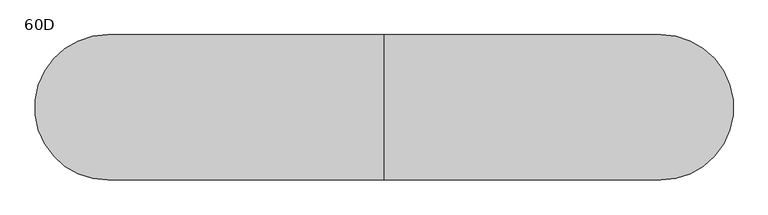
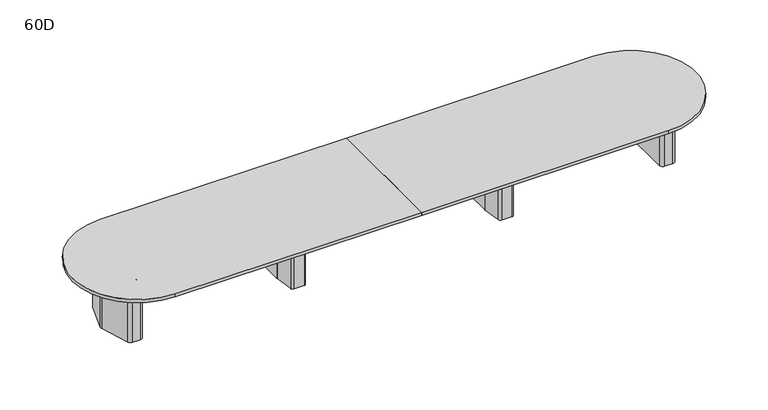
"""IFC4 building model written with IfcOpenShell, lengths in millimetres: furniture geometry, Coalesse_AM_Table_Conference_ETable2_Racetrack_24ft_FourBase : 60D."""

from ifc_helpers import new_model, si_unit, point, frame, frame_2d, origin, origin_with_axes, place, context, project, spatial, polyline, circle_curve, trimmed, segment, composite_curve, outline, extrude, source, transform, mapped, element, save
from ifc_brep_helpers import plane_surface, cylinder_surface, revolved_surface, advanced_brep


def furniture_60d_cc4c99b4(model_context):
    return source(origin(), model_context, "Body", "SolidModel", [
        advanced_brep(
        [(1280.2357815, 381.0, 698.5), (1158.1642185, 381.0, 698.5), (1133.0114006, 359.1349332, 698.5), (1101.9721821, 138.2753661, 698.5), (1101.725, 134.740433, 698.5), (1101.725, -134.7404196, 698.5), (1101.9721537, -138.2751502, 698.5), (1133.0095605, -359.1347306, 698.5), (1158.1624068, -381.0, 698.5), (1280.2375932, -381.0, 698.5), (1305.3904395, -359.1347306, 698.5), (1336.4278463, -138.2751502, 698.5), (1336.675, -134.7404196, 698.5), (1336.675, 134.740433, 698.5), (1336.4278179, 138.2753661, 698.5), (1305.3885994, 359.1349332, 698.5), (1244.6, 314.325, 698.5), (1270.0, 288.925, 698.5), (1270.0, -288.925, 698.5), (1244.6, -314.325, 698.5), (1193.8, -314.325, 698.5), (1168.4, -288.925, 698.5), (1168.4, 288.925, 698.5), (1193.8, 314.325, 698.5), (1280.2357815, 381.0, 3.175), (1305.3885994, 359.1349332, 3.175), (1336.4278179, 138.2753661, 3.175), (1336.675, 134.740433, 3.175), (1336.675, -134.7404196, 3.175), (1336.4278463, -138.2751502, 3.175), (1305.3904395, -359.1347306, 3.175), (1280.2375932, -381.0, 3.175), (1158.1624068, -381.0, 3.175), (1133.0095605, -359.1347306, 3.175), (1101.9721537, -138.2751502, 3.175), (1101.725, -134.7404196, 3.175), (1101.725, 134.740433, 3.175), (1101.9721821, 138.2753661, 3.175), (1133.0114006, 359.1349332, 3.175), (1158.1642185, 381.0, 3.175), (1244.6, 327.025, 3.175), (1193.8, 327.025, 3.175), (1155.7, 288.925, 3.175), (1155.7, -288.925, 3.175), (1193.8, -327.025, 3.175), (1244.6, -327.025, 3.175), (1282.7, -288.925, 3.175), (1282.7, 288.925, 3.175), (1244.6, 314.325, 3.175), (1270.0, 288.925, 3.175), (1270.0, -288.925, 3.175), (1244.6, -314.325, 3.175), (1193.8, -314.325, 3.175), (1168.4, -288.925, 3.175), (1168.4, 288.925, 3.175), (1193.8, 314.325, 3.175), (1244.6, 327.025, 0.0), (1282.7, 288.925, 0.0), (1282.7, -288.925, 0.0), (1244.6, -327.025, 0.0), (1193.8, -327.025, 0.0), (1155.7, -288.925, 0.0), (1155.7, 288.925, 0.0), (1193.8, 327.025, 0.0)],
        [
            (0, 1),
            (1, 2, circle_curve(frame((1158.1642185, 355.6, 698.5), z_axis=(0.0, 0.0, 1.0), x_axis=(1.0, 0.0, 0.0)), 25.4)),
            (2, 3),
            (3, 4, circle_curve(frame((1127.125, 134.740433, 698.5), z_axis=(0.0, 0.0, 1.0), x_axis=(1.0, 0.0, 0.0)), 25.4)),
            (4, 5),
            (5, 6, circle_curve(frame((1127.125, -134.7404196, 698.5), z_axis=(0.0, 0.0, 1.0), x_axis=(1.0, 0.0, 0.0)), 25.4)),
            (6, 7),
            (7, 8, circle_curve(frame((1158.1624068, -355.6, 698.5), z_axis=(0.0, 0.0, 1.0), x_axis=(1.0, 0.0, 0.0)), 25.4)),
            (8, 9),
            (9, 10, circle_curve(frame((1280.2375932, -355.6, 698.5), z_axis=(0.0, 0.0, 1.0), x_axis=(1.0, 0.0, 0.0)), 25.4)),
            (10, 11),
            (11, 12, circle_curve(frame((1311.275, -134.7404196, 698.5), z_axis=(0.0, 0.0, 1.0), x_axis=(1.0, 0.0, 0.0)), 25.4)),
            (12, 13),
            (13, 14, circle_curve(frame((1311.275, 134.740433, 698.5), z_axis=(0.0, 0.0, 1.0), x_axis=(1.0, 0.0, 0.0)), 25.4)),
            (14, 15),
            (15, 0, circle_curve(frame((1280.2357815, 355.6, 698.5), z_axis=(0.0, 0.0, 1.0), x_axis=(1.0, 0.0, 0.0)), 25.4)),
            (16, 17, circle_curve(frame((1244.6, 288.925, 698.5), z_axis=(0.0, 0.0, -1.0), x_axis=(1.0, 0.0, 0.0)), 25.4)),
            (17, 18),
            (18, 19, circle_curve(frame((1244.6, -288.925, 698.5), z_axis=(0.0, 0.0, -1.0), x_axis=(1.0, 0.0, 0.0)), 25.4)),
            (19, 20),
            (20, 21, circle_curve(frame((1193.8, -288.925, 698.5), z_axis=(0.0, 0.0, -1.0), x_axis=(1.0, 0.0, 0.0)), 25.4)),
            (21, 22),
            (22, 23, circle_curve(frame((1193.8, 288.925, 698.5), z_axis=(0.0, 0.0, -1.0), x_axis=(1.0, 0.0, 0.0)), 25.4)),
            (23, 16),
            (24, 25, circle_curve(frame((1280.2357815, 355.6, 3.175), z_axis=(0.0, 0.0, -1.0), x_axis=(1.0, 0.0, 0.0)), 25.4)),
            (25, 26),
            (26, 27, circle_curve(frame((1311.275, 134.740433, 3.175), z_axis=(0.0, 0.0, -1.0), x_axis=(1.0, 0.0, 0.0)), 25.4)),
            (27, 28),
            (28, 29, circle_curve(frame((1311.275, -134.7404196, 3.175), z_axis=(0.0, 0.0, -1.0), x_axis=(1.0, 0.0, 0.0)), 25.4)),
            (29, 30),
            (30, 31, circle_curve(frame((1280.2375932, -355.6, 3.175), z_axis=(0.0, 0.0, -1.0), x_axis=(1.0, 0.0, 0.0)), 25.4)),
            (31, 32),
            (32, 33, circle_curve(frame((1158.1624068, -355.6, 3.175), z_axis=(0.0, 0.0, -1.0), x_axis=(1.0, 0.0, 0.0)), 25.4)),
            (33, 34),
            (34, 35, circle_curve(frame((1127.125, -134.7404196, 3.175), z_axis=(0.0, 0.0, -1.0), x_axis=(1.0, 0.0, 0.0)), 25.4)),
            (35, 36),
            (36, 37, circle_curve(frame((1127.125, 134.740433, 3.175), z_axis=(0.0, 0.0, -1.0), x_axis=(1.0, 0.0, 0.0)), 25.4)),
            (37, 38),
            (38, 39, circle_curve(frame((1158.1642185, 355.6, 3.175), z_axis=(0.0, 0.0, -1.0), x_axis=(1.0, 0.0, 0.0)), 25.4)),
            (39, 24),
            (40, 41),
            (41, 42, circle_curve(frame((1193.8, 288.925, 3.175), z_axis=(0.0, 0.0, 1.0), x_axis=(1.0, 0.0, 0.0)), 38.1)),
            (42, 43),
            (43, 44, circle_curve(frame((1193.8, -288.925, 3.175), z_axis=(0.0, 0.0, 1.0), x_axis=(1.0, 0.0, 0.0)), 38.1)),
            (44, 45),
            (45, 46, circle_curve(frame((1244.6, -288.925, 3.175), z_axis=(0.0, 0.0, 1.0), x_axis=(1.0, 0.0, 0.0)), 38.1)),
            (46, 47),
            (47, 40, circle_curve(frame((1244.6, 288.925, 3.175), z_axis=(0.0, 0.0, 1.0), x_axis=(1.0, 0.0, 0.0)), 38.1)),
            (0, 24),
            (39, 1),
            (38, 2),
            (37, 3),
            (36, 4),
            (35, 5),
            (34, 6),
            (33, 7),
            (32, 8),
            (31, 9),
            (30, 10),
            (29, 11),
            (28, 12),
            (27, 13),
            (26, 14),
            (25, 15),
            (16, 48),
            (48, 49, circle_curve(frame((1244.6, 288.925, 3.175), z_axis=(0.0, 0.0, -1.0), x_axis=(1.0, 0.0, 0.0)), 25.4)),
            (49, 17),
            (49, 50),
            (50, 18),
            (50, 51, circle_curve(frame((1244.6, -288.925, 3.175), z_axis=(0.0, 0.0, -1.0), x_axis=(1.0, 0.0, 0.0)), 25.4)),
            (51, 19),
            (51, 52),
            (52, 20),
            (52, 53, circle_curve(frame((1193.8, -288.925, 3.175), z_axis=(0.0, 0.0, -1.0), x_axis=(1.0, 0.0, 0.0)), 25.4)),
            (53, 21),
            (53, 54),
            (54, 22),
            (54, 55, circle_curve(frame((1193.8, 288.925, 3.175), z_axis=(0.0, 0.0, -1.0), x_axis=(1.0, 0.0, 0.0)), 25.4)),
            (55, 23),
            (55, 48),
            (56, 57, circle_curve(frame((1244.6, 288.925, 0.0), z_axis=(0.0, 0.0, -1.0), x_axis=(1.0, 0.0, 0.0)), 38.1)),
            (57, 58),
            (58, 59, circle_curve(frame((1244.6, -288.925, 0.0), z_axis=(0.0, 0.0, -1.0), x_axis=(1.0, 0.0, 0.0)), 38.1)),
            (59, 60),
            (60, 61, circle_curve(frame((1193.8, -288.925, 0.0), z_axis=(0.0, 0.0, -1.0), x_axis=(1.0, 0.0, 0.0)), 38.1)),
            (61, 62),
            (62, 63, circle_curve(frame((1193.8, 288.925, 0.0), z_axis=(0.0, 0.0, -1.0), x_axis=(1.0, 0.0, 0.0)), 38.1)),
            (63, 56),
            (63, 41),
            (40, 56),
            (62, 42),
            (61, 43),
            (60, 44),
            (59, 45),
            (58, 46),
            (57, 47),
        ],
        [
            plane_surface(frame((-304.8, 381.0, 698.5), z_axis=(0.0, 0.0, 1.0), x_axis=(-1.0, 0.0, 0.0))),
            plane_surface(frame((-304.8, 381.0, 3.175), z_axis=(0.0, 0.0, -1.0), x_axis=(1.0, 0.0, 0.0))),
            plane_surface(frame((1280.2357815, 381.0, 698.5), z_axis=(0.0, 1.0, 0.0), x_axis=(0.0, 0.0, -1.0))),
            cylinder_surface(frame((1158.1642185, 355.6, 3.175), z_axis=(0.0, 0.0, 1.0), x_axis=(1.0, 0.0, 0.0)), 25.4),
            plane_surface(frame((1133.0114006, 359.1349332, 698.5), z_axis=(-0.9902684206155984, 0.13917059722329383, 0.0), x_axis=(0.0, 0.0, -1.0))),
            cylinder_surface(frame((1127.125, 134.740433, 3.175), z_axis=(0.0, 0.0, 1.0), x_axis=(1.0, 0.0, 0.0)), 25.4),
            plane_surface(frame((1101.725, 134.740433, 698.5), z_axis=(-1.0, 0.0, 0.0), x_axis=(0.0, 0.0, -1.0))),
            cylinder_surface(frame((1127.125, -134.7404196, 3.175), z_axis=(0.0, 0.0, 1.0), x_axis=(1.0, 0.0, 0.0)), 25.4),
            plane_surface(frame((1101.9721537, -138.2751502, 698.5), z_axis=(-0.9902695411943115, -0.1391626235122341, 0.0), x_axis=(0.0, 0.0, -1.0))),
            cylinder_surface(frame((1158.1624068, -355.6, 3.175), z_axis=(0.0, 0.0, 1.0), x_axis=(1.0, 0.0, 0.0)), 25.4),
            plane_surface(frame((1158.1624068, -381.0, 698.5), z_axis=(0.0, -1.0, 0.0), x_axis=(0.0, 0.0, -1.0))),
            cylinder_surface(frame((1280.2375932, -355.6, 3.175), z_axis=(0.0, 0.0, 1.0), x_axis=(1.0, 0.0, 0.0)), 25.4),
            plane_surface(frame((1305.3904395, -359.1347306, 698.5), z_axis=(0.9902695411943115, -0.1391626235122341, 0.0), x_axis=(0.0, 0.0, -1.0))),
            cylinder_surface(frame((1311.275, -134.7404196, 3.175), z_axis=(0.0, 0.0, 1.0), x_axis=(1.0, 0.0, 0.0)), 25.4),
            plane_surface(frame((1336.675, -134.7404196, 698.5), z_axis=(1.0, 0.0, 0.0), x_axis=(0.0, 0.0, -1.0))),
            cylinder_surface(frame((1311.275, 134.740433, 3.175), z_axis=(0.0, 0.0, 1.0), x_axis=(1.0, 0.0, 0.0)), 25.4),
            plane_surface(frame((1336.4278179, 138.2753661, 698.5), z_axis=(0.9902684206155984, 0.13917059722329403, 0.0), x_axis=(0.0, 0.0, -1.0))),
            cylinder_surface(frame((1280.2357815, 355.6, 3.175), z_axis=(0.0, 0.0, 1.0), x_axis=(1.0, 0.0, 0.0)), 25.4),
            revolved_surface(polyline([(1270.0, 288.925, 3.175), (1270.0, 288.925, 698.5)]), (1244.6, 288.925, 0.0), (0.0, 0.0, -1.0)),
            plane_surface(frame((1270.0, 288.925, 698.5), z_axis=(-1.0, 0.0, 0.0), x_axis=(0.0, 0.0, -1.0))),
            revolved_surface(polyline([(1270.0, -288.925, 3.175), (1270.0, -288.925, 698.5)]), (1244.6, -288.925, 0.0), (0.0, 0.0, -1.0)),
            plane_surface(frame((1244.6, -314.325, 698.5), z_axis=(0.0, 1.0, 0.0), x_axis=(0.0, 0.0, -1.0))),
            revolved_surface(polyline([(1219.2, -288.925, 3.175), (1219.2, -288.925, 698.5)]), (1193.8, -288.925, 0.0), (0.0, 0.0, -1.0)),
            plane_surface(frame((1168.4, -288.925, 698.5), z_axis=(1.0, 0.0, 0.0), x_axis=(0.0, 0.0, -1.0))),
            revolved_surface(polyline([(1219.2, 288.925, 3.175), (1219.2, 288.925, 698.5)]), (1193.8, 288.925, 0.0), (0.0, 0.0, -1.0)),
            plane_surface(frame((1193.8, 314.325, 698.5), z_axis=(0.0, -1.0, 0.0), x_axis=(0.0, 0.0, -1.0))),
            plane_surface(frame((1168.4, 327.025, 3.175), z_axis=(0.0, 0.0, 1.0), x_axis=(-1.0, 0.0, 0.0))),
            plane_surface(frame((1168.4, 327.025, 0.0), z_axis=(0.0, 0.0, -1.0), x_axis=(1.0, 0.0, 0.0))),
            plane_surface(frame((1244.6, 327.025, 3.175), z_axis=(0.0, 1.0, 0.0), x_axis=(0.0, 0.0, -1.0))),
            cylinder_surface(frame((1193.8, 288.925, 0.0), z_axis=(0.0, 0.0, 1.0), x_axis=(1.0, 0.0, 0.0)), 38.1),
            plane_surface(frame((1155.7, 288.925, 3.175), z_axis=(-1.0, 0.0, 0.0), x_axis=(0.0, 0.0, -1.0))),
            cylinder_surface(frame((1193.8, -288.925, 0.0), z_axis=(0.0, 0.0, 1.0), x_axis=(1.0, 0.0, 0.0)), 38.1),
            plane_surface(frame((1193.8, -327.025, 3.175), z_axis=(0.0, -1.0, 0.0), x_axis=(0.0, 0.0, -1.0))),
            cylinder_surface(frame((1244.6, -288.925, 0.0), z_axis=(0.0, 0.0, 1.0), x_axis=(1.0, 0.0, 0.0)), 38.1),
            plane_surface(frame((1282.7, -288.925, 3.175), z_axis=(1.0, 0.0, 0.0), x_axis=(0.0, 0.0, -1.0))),
            cylinder_surface(frame((1244.6, 288.925, 0.0), z_axis=(0.0, 0.0, 1.0), x_axis=(1.0, 0.0, 0.0)), 38.1),
        ],
        [
            (0, [[1, 2, 3, 4, 5, 6, 7, 8, 9, 10, 11, 12, 13, 14, 15, 16], [17, 18, 19, 20, 21, 22, 23, 24]]),
            (1, [[25, 26, 27, 28, 29, 30, 31, 32, 33, 34, 35, 36, 37, 38, 39, 40], [41, 42, 43, 44, 45, 46, 47, 48]]),
            (2, [[-1, 49, -40, 50]]),
            (3, [[-2, -50, -39, 51]]),
            (4, [[-3, -51, -38, 52]]),
            (5, [[-4, -52, -37, 53]]),
            (6, [[-5, -53, -36, 54]]),
            (7, [[-6, -54, -35, 55]]),
            (8, [[-7, -55, -34, 56]]),
            (9, [[-8, -56, -33, 57]]),
            (10, [[-9, -57, -32, 58]]),
            (11, [[-10, -58, -31, 59]]),
            (12, [[-11, -59, -30, 60]]),
            (13, [[-12, -60, -29, 61]]),
            (14, [[-13, -61, -28, 62]]),
            (15, [[-14, -62, -27, 63]]),
            (16, [[-15, -63, -26, 64]]),
            (17, [[-16, -64, -25, -49]]),
            (18, [[-17, 65, 66, 67]]),
            (19, [[-18, -67, 68, 69]]),
            (20, [[-19, -69, 70, 71]]),
            (21, [[-20, -71, 72, 73]]),
            (22, [[-21, -73, 74, 75]]),
            (23, [[-22, -75, 76, 77]]),
            (24, [[-23, -77, 78, 79]]),
            (25, [[-24, -79, 80, -65]]),
            (26, [[-66, -80, -78, -76, -74, -72, -70, -68]]),
            (27, [[81, 82, 83, 84, 85, 86, 87, 88]]),
            (28, [[-88, 89, -41, 90]]),
            (29, [[-87, 91, -42, -89]]),
            (30, [[-86, 92, -43, -91]]),
            (31, [[-85, 93, -44, -92]]),
            (32, [[-84, 94, -45, -93]]),
            (33, [[-83, 95, -46, -94]]),
            (34, [[-82, 96, -47, -95]]),
            (35, [[-81, -90, -48, -96]]),
        ],
    ),
        advanced_brep(
        [(-1158.1642185, 381.0, 698.5), (-1280.2357815, 381.0, 698.5), (-1305.3885994, 359.1349332, 698.5), (-1336.4278179, 138.2753661, 698.5), (-1336.675, 134.740433, 698.5), (-1336.675, -134.7404196, 698.5), (-1336.4278463, -138.2751502, 698.5), (-1305.3904395, -359.1347306, 698.5), (-1280.2375932, -381.0, 698.5), (-1158.1624068, -381.0, 698.5), (-1133.0095605, -359.1347306, 698.5), (-1101.9721537, -138.2751502, 698.5), (-1101.725, -134.7404196, 698.5), (-1101.725, 134.740433, 698.5), (-1101.9721821, 138.2753661, 698.5), (-1133.0114006, 359.1349332, 698.5), (-1193.8, 314.325, 698.5), (-1168.4, 288.925, 698.5), (-1168.4, -288.925, 698.5), (-1193.8, -314.325, 698.5), (-1244.6, -314.325, 698.5), (-1270.0, -288.925, 698.5), (-1270.0, 288.925, 698.5), (-1244.6, 314.325, 698.5), (-1158.1642185, 381.0, 3.175), (-1133.0114006, 359.1349332, 3.175), (-1101.9721821, 138.2753661, 3.175), (-1101.725, 134.740433, 3.175), (-1101.725, -134.7404196, 3.175), (-1101.9721537, -138.2751502, 3.175), (-1133.0095605, -359.1347306, 3.175), (-1158.1624068, -381.0, 3.175), (-1280.2375932, -381.0, 3.175), (-1305.3904395, -359.1347306, 3.175), (-1336.4278463, -138.2751502, 3.175), (-1336.675, -134.7404196, 3.175), (-1336.675, 134.740433, 3.175), (-1336.4278179, 138.2753661, 3.175), (-1305.3885994, 359.1349332, 3.175), (-1280.2357815, 381.0, 3.175), (-1193.8, 327.025, 3.175), (-1244.6, 327.025, 3.175), (-1282.7, 288.925, 3.175), (-1282.7, -288.925, 3.175), (-1244.6, -327.025, 3.175), (-1193.8, -327.025, 3.175), (-1155.7, -288.925, 3.175), (-1155.7, 288.925, 3.175), (-1193.8, 314.325, 3.175), (-1168.4, 288.925, 3.175), (-1168.4, -288.925, 3.175), (-1193.8, -314.325, 3.175), (-1244.6, -314.325, 3.175), (-1270.0, -288.925, 3.175), (-1270.0, 288.925, 3.175), (-1244.6, 314.325, 3.175), (-1193.8, 327.025, 0.0), (-1155.7, 288.925, 0.0), (-1155.7, -288.925, 0.0), (-1193.8, -327.025, 0.0), (-1244.6, -327.025, 0.0), (-1282.7, -288.925, 0.0), (-1282.7, 288.925, 0.0), (-1244.6, 327.025, 0.0)],
        [
            (0, 1),
            (1, 2, circle_curve(frame((-1280.2357815, 355.6, 698.5), z_axis=(0.0, 0.0, 1.0), x_axis=(1.0, 0.0, 0.0)), 25.4)),
            (2, 3),
            (3, 4, circle_curve(frame((-1311.275, 134.740433, 698.5), z_axis=(0.0, 0.0, 1.0), x_axis=(1.0, 0.0, 0.0)), 25.4)),
            (4, 5),
            (5, 6, circle_curve(frame((-1311.275, -134.7404196, 698.5), z_axis=(0.0, 0.0, 1.0), x_axis=(1.0, 0.0, 0.0)), 25.4)),
            (6, 7),
            (7, 8, circle_curve(frame((-1280.2375932, -355.6, 698.5), z_axis=(0.0, 0.0, 1.0), x_axis=(1.0, 0.0, 0.0)), 25.4)),
            (8, 9),
            (9, 10, circle_curve(frame((-1158.1624068, -355.6, 698.5), z_axis=(0.0, 0.0, 1.0), x_axis=(1.0, 0.0, 0.0)), 25.4)),
            (10, 11),
            (11, 12, circle_curve(frame((-1127.125, -134.7404196, 698.5), z_axis=(0.0, 0.0, 1.0), x_axis=(1.0, 0.0, 0.0)), 25.4)),
            (12, 13),
            (13, 14, circle_curve(frame((-1127.125, 134.740433, 698.5), z_axis=(0.0, 0.0, 1.0), x_axis=(1.0, 0.0, 0.0)), 25.4)),
            (14, 15),
            (15, 0, circle_curve(frame((-1158.1642185, 355.6, 698.5), z_axis=(0.0, 0.0, 1.0), x_axis=(1.0, 0.0, 0.0)), 25.4)),
            (16, 17, circle_curve(frame((-1193.8, 288.925, 698.5), z_axis=(0.0, 0.0, -1.0), x_axis=(1.0, 0.0, 0.0)), 25.4)),
            (17, 18),
            (18, 19, circle_curve(frame((-1193.8, -288.925, 698.5), z_axis=(0.0, 0.0, -1.0), x_axis=(1.0, 0.0, 0.0)), 25.4)),
            (19, 20),
            (20, 21, circle_curve(frame((-1244.6, -288.925, 698.5), z_axis=(0.0, 0.0, -1.0), x_axis=(1.0, 0.0, 0.0)), 25.4)),
            (21, 22),
            (22, 23, circle_curve(frame((-1244.6, 288.925, 698.5), z_axis=(0.0, 0.0, -1.0), x_axis=(1.0, 0.0, 0.0)), 25.4)),
            (23, 16),
            (24, 25, circle_curve(frame((-1158.1642185, 355.6, 3.175), z_axis=(0.0, 0.0, -1.0), x_axis=(1.0, 0.0, 0.0)), 25.4)),
            (25, 26),
            (26, 27, circle_curve(frame((-1127.125, 134.740433, 3.175), z_axis=(0.0, 0.0, -1.0), x_axis=(1.0, 0.0, 0.0)), 25.4)),
            (27, 28),
            (28, 29, circle_curve(frame((-1127.125, -134.7404196, 3.175), z_axis=(0.0, 0.0, -1.0), x_axis=(1.0, 0.0, 0.0)), 25.4)),
            (29, 30),
            (30, 31, circle_curve(frame((-1158.1624068, -355.6, 3.175), z_axis=(0.0, 0.0, -1.0), x_axis=(1.0, 0.0, 0.0)), 25.4)),
            (31, 32),
            (32, 33, circle_curve(frame((-1280.2375932, -355.6, 3.175), z_axis=(0.0, 0.0, -1.0), x_axis=(1.0, 0.0, 0.0)), 25.4)),
            (33, 34),
            (34, 35, circle_curve(frame((-1311.275, -134.7404196, 3.175), z_axis=(0.0, 0.0, -1.0), x_axis=(1.0, 0.0, 0.0)), 25.4)),
            (35, 36),
            (36, 37, circle_curve(frame((-1311.275, 134.740433, 3.175), z_axis=(0.0, 0.0, -1.0), x_axis=(1.0, 0.0, 0.0)), 25.4)),
            (37, 38),
            (38, 39, circle_curve(frame((-1280.2357815, 355.6, 3.175), z_axis=(0.0, 0.0, -1.0), x_axis=(1.0, 0.0, 0.0)), 25.4)),
            (39, 24),
            (40, 41),
            (41, 42, circle_curve(frame((-1244.6, 288.925, 3.175), z_axis=(0.0, 0.0, 1.0), x_axis=(1.0, 0.0, 0.0)), 38.1)),
            (42, 43),
            (43, 44, circle_curve(frame((-1244.6, -288.925, 3.175), z_axis=(0.0, 0.0, 1.0), x_axis=(1.0, 0.0, 0.0)), 38.1)),
            (44, 45),
            (45, 46, circle_curve(frame((-1193.8, -288.925, 3.175), z_axis=(0.0, 0.0, 1.0), x_axis=(1.0, 0.0, 0.0)), 38.1)),
            (46, 47),
            (47, 40, circle_curve(frame((-1193.8, 288.925, 3.175), z_axis=(0.0, 0.0, 1.0), x_axis=(1.0, 0.0, 0.0)), 38.1)),
            (0, 24),
            (39, 1),
            (38, 2),
            (37, 3),
            (36, 4),
            (35, 5),
            (34, 6),
            (33, 7),
            (32, 8),
            (31, 9),
            (30, 10),
            (29, 11),
            (28, 12),
            (27, 13),
            (26, 14),
            (25, 15),
            (16, 48),
            (48, 49, circle_curve(frame((-1193.8, 288.925, 3.175), z_axis=(0.0, 0.0, -1.0), x_axis=(1.0, 0.0, 0.0)), 25.4)),
            (49, 17),
            (49, 50),
            (50, 18),
            (50, 51, circle_curve(frame((-1193.8, -288.925, 3.175), z_axis=(0.0, 0.0, -1.0), x_axis=(1.0, 0.0, 0.0)), 25.4)),
            (51, 19),
            (51, 52),
            (52, 20),
            (52, 53, circle_curve(frame((-1244.6, -288.925, 3.175), z_axis=(0.0, 0.0, -1.0), x_axis=(1.0, 0.0, 0.0)), 25.4)),
            (53, 21),
            (53, 54),
            (54, 22),
            (54, 55, circle_curve(frame((-1244.6, 288.925, 3.175), z_axis=(0.0, 0.0, -1.0), x_axis=(1.0, 0.0, 0.0)), 25.4)),
            (55, 23),
            (55, 48),
            (56, 57, circle_curve(frame((-1193.8, 288.925, 0.0), z_axis=(0.0, 0.0, -1.0), x_axis=(1.0, 0.0, 0.0)), 38.1)),
            (57, 58),
            (58, 59, circle_curve(frame((-1193.8, -288.925, 0.0), z_axis=(0.0, 0.0, -1.0), x_axis=(1.0, 0.0, 0.0)), 38.1)),
            (59, 60),
            (60, 61, circle_curve(frame((-1244.6, -288.925, 0.0), z_axis=(0.0, 0.0, -1.0), x_axis=(1.0, 0.0, 0.0)), 38.1)),
            (61, 62),
            (62, 63, circle_curve(frame((-1244.6, 288.925, 0.0), z_axis=(0.0, 0.0, -1.0), x_axis=(1.0, 0.0, 0.0)), 38.1)),
            (63, 56),
            (63, 41),
            (40, 56),
            (62, 42),
            (61, 43),
            (60, 44),
            (59, 45),
            (58, 46),
            (57, 47),
        ],
        [
            plane_surface(frame((-2743.2, 381.0, 698.5), z_axis=(0.0, 0.0, 1.0), x_axis=(-1.0, 0.0, 0.0))),
            plane_surface(frame((-2743.2, 381.0, 3.175), z_axis=(0.0, 0.0, -1.0), x_axis=(1.0, 0.0, 0.0))),
            plane_surface(frame((-1158.1642185, 381.0, 698.5), z_axis=(0.0, 1.0, 0.0), x_axis=(0.0, 0.0, -1.0))),
            cylinder_surface(frame((-1280.2357815, 355.6, 3.175), z_axis=(0.0, 0.0, 1.0), x_axis=(1.0, 0.0, 0.0)), 25.4),
            plane_surface(frame((-1305.3885994, 359.1349332, 698.5), z_axis=(-0.9902684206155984, 0.13917059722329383, 0.0), x_axis=(0.0, 0.0, -1.0))),
            cylinder_surface(frame((-1311.275, 134.740433, 3.175), z_axis=(0.0, 0.0, 1.0), x_axis=(1.0, 0.0, 0.0)), 25.4),
            plane_surface(frame((-1336.675, 134.740433, 698.5), z_axis=(-1.0, 0.0, 0.0), x_axis=(0.0, 0.0, -1.0))),
            cylinder_surface(frame((-1311.275, -134.7404196, 3.175), z_axis=(0.0, 0.0, 1.0), x_axis=(1.0, 0.0, 0.0)), 25.4),
            plane_surface(frame((-1336.4278463, -138.2751502, 698.5), z_axis=(-0.9902695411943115, -0.1391626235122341, 0.0), x_axis=(0.0, 0.0, -1.0))),
            cylinder_surface(frame((-1280.2375932, -355.6, 3.175), z_axis=(0.0, 0.0, 1.0), x_axis=(1.0, 0.0, 0.0)), 25.4),
            plane_surface(frame((-1280.2375932, -381.0, 698.5), z_axis=(0.0, -1.0, 0.0), x_axis=(0.0, 0.0, -1.0))),
            cylinder_surface(frame((-1158.1624068, -355.6, 3.175), z_axis=(0.0, 0.0, 1.0), x_axis=(1.0, 0.0, 0.0)), 25.4),
            plane_surface(frame((-1133.0095605, -359.1347306, 698.5), z_axis=(0.9902695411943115, -0.1391626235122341, 0.0), x_axis=(0.0, 0.0, -1.0))),
            cylinder_surface(frame((-1127.125, -134.7404196, 3.175), z_axis=(0.0, 0.0, 1.0), x_axis=(1.0, 0.0, 0.0)), 25.4),
            plane_surface(frame((-1101.725, -134.7404196, 698.5), z_axis=(1.0, 0.0, 0.0), x_axis=(0.0, 0.0, -1.0))),
            cylinder_surface(frame((-1127.125, 134.740433, 3.175), z_axis=(0.0, 0.0, 1.0), x_axis=(1.0, 0.0, 0.0)), 25.4),
            plane_surface(frame((-1101.9721821, 138.2753661, 698.5), z_axis=(0.9902684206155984, 0.13917059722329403, 0.0), x_axis=(0.0, 0.0, -1.0))),
            cylinder_surface(frame((-1158.1642185, 355.6, 3.175), z_axis=(0.0, 0.0, 1.0), x_axis=(1.0, 0.0, 0.0)), 25.4),
            revolved_surface(polyline([(-1168.3999999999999, 288.925, 3.175), (-1168.3999999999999, 288.925, 698.5)]), (-1193.8, 288.925, 0.0), (0.0, 0.0, -1.0)),
            plane_surface(frame((-1168.4, 288.925, 698.5), z_axis=(-1.0, 0.0, 0.0), x_axis=(0.0, 0.0, -1.0))),
            revolved_surface(polyline([(-1168.3999999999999, -288.925, 3.175), (-1168.3999999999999, -288.925, 698.5)]), (-1193.8, -288.925, 0.0), (0.0, 0.0, -1.0)),
            plane_surface(frame((-1193.8, -314.325, 698.5), z_axis=(0.0, 1.0, 0.0), x_axis=(0.0, 0.0, -1.0))),
            revolved_surface(polyline([(-1219.1999999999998, -288.925, 3.175), (-1219.1999999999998, -288.925, 698.5)]), (-1244.6, -288.925, 0.0), (0.0, 0.0, -1.0)),
            plane_surface(frame((-1270.0, -288.925, 698.5), z_axis=(1.0, 0.0, 0.0), x_axis=(0.0, 0.0, -1.0))),
            revolved_surface(polyline([(-1219.1999999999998, 288.925, 3.175), (-1219.1999999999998, 288.925, 698.5)]), (-1244.6, 288.925, 0.0), (0.0, 0.0, -1.0)),
            plane_surface(frame((-1244.6, 314.325, 698.5), z_axis=(0.0, -1.0, 0.0), x_axis=(0.0, 0.0, -1.0))),
            plane_surface(frame((-1270.0, 327.025, 3.175), z_axis=(0.0, 0.0, 1.0), x_axis=(-1.0, 0.0, 0.0))),
            plane_surface(frame((-1270.0, 327.025, 0.0), z_axis=(0.0, 0.0, -1.0), x_axis=(1.0, 0.0, 0.0))),
            plane_surface(frame((-1193.8, 327.025, 3.175), z_axis=(0.0, 1.0, 0.0), x_axis=(0.0, 0.0, -1.0))),
            cylinder_surface(frame((-1244.6, 288.925, 0.0), z_axis=(0.0, 0.0, 1.0), x_axis=(1.0, 0.0, 0.0)), 38.1),
            plane_surface(frame((-1282.7, 288.925, 3.175), z_axis=(-1.0, 0.0, 0.0), x_axis=(0.0, 0.0, -1.0))),
            cylinder_surface(frame((-1244.6, -288.925, 0.0), z_axis=(0.0, 0.0, 1.0), x_axis=(1.0, 0.0, 0.0)), 38.1),
            plane_surface(frame((-1244.6, -327.025, 3.175), z_axis=(0.0, -1.0, 0.0), x_axis=(0.0, 0.0, -1.0))),
            cylinder_surface(frame((-1193.8, -288.925, 0.0), z_axis=(0.0, 0.0, 1.0), x_axis=(1.0, 0.0, 0.0)), 38.1),
            plane_surface(frame((-1155.7, -288.925, 3.175), z_axis=(1.0, 0.0, 0.0), x_axis=(0.0, 0.0, -1.0))),
            cylinder_surface(frame((-1193.8, 288.925, 0.0), z_axis=(0.0, 0.0, 1.0), x_axis=(1.0, 0.0, 0.0)), 38.1),
        ],
        [
            (0, [[1, 2, 3, 4, 5, 6, 7, 8, 9, 10, 11, 12, 13, 14, 15, 16], [17, 18, 19, 20, 21, 22, 23, 24]]),
            (1, [[25, 26, 27, 28, 29, 30, 31, 32, 33, 34, 35, 36, 37, 38, 39, 40], [41, 42, 43, 44, 45, 46, 47, 48]]),
            (2, [[-1, 49, -40, 50]]),
            (3, [[-2, -50, -39, 51]]),
            (4, [[-3, -51, -38, 52]]),
            (5, [[-4, -52, -37, 53]]),
            (6, [[-5, -53, -36, 54]]),
            (7, [[-6, -54, -35, 55]]),
            (8, [[-7, -55, -34, 56]]),
            (9, [[-8, -56, -33, 57]]),
            (10, [[-9, -57, -32, 58]]),
            (11, [[-10, -58, -31, 59]]),
            (12, [[-11, -59, -30, 60]]),
            (13, [[-12, -60, -29, 61]]),
            (14, [[-13, -61, -28, 62]]),
            (15, [[-14, -62, -27, 63]]),
            (16, [[-15, -63, -26, 64]]),
            (17, [[-16, -64, -25, -49]]),
            (18, [[-17, 65, 66, 67]]),
            (19, [[-18, -67, 68, 69]]),
            (20, [[-19, -69, 70, 71]]),
            (21, [[-20, -71, 72, 73]]),
            (22, [[-21, -73, 74, 75]]),
            (23, [[-22, -75, 76, 77]]),
            (24, [[-23, -77, 78, 79]]),
            (25, [[-24, -79, 80, -65]]),
            (26, [[-66, -80, -78, -76, -74, -72, -70, -68]]),
            (27, [[81, 82, 83, 84, 85, 86, 87, 88]]),
            (28, [[-88, 89, -41, 90]]),
            (29, [[-87, 91, -42, -89]]),
            (30, [[-86, 92, -43, -91]]),
            (31, [[-85, 93, -44, -92]]),
            (32, [[-84, 94, -45, -93]]),
            (33, [[-83, 95, -46, -94]]),
            (34, [[-82, 96, -47, -95]]),
            (35, [[-81, -90, -48, -96]]),
        ],
    ),
        extrude(outline(composite_curve([segment(polyline([(3255.9625, 101.7236478), (3255.9625, -97.2761514)]), True, "CONTINUOUS"), segment(trimmed(circle_curve(frame_2d((3217.8625, -97.2761514)), 38.1), [point((3255.9625, -97.2761514))], [point((3254.1991129, -108.7330515))], False, "CARTESIAN"), True, "CONTINUOUS"), segment(polyline([(3254.1991129, -108.7330515), (3195.7745591, -294.0319001)]), True, "CONTINUOUS"), segment(trimmed(circle_curve(frame_2d((3159.4379462, -282.575)), 38.1), [point((3195.7745591, -294.0319001))], [point((3159.4379462, -320.675))], False, "CARTESIAN"), True, "CONTINUOUS"), segment(polyline([(3159.4379462, -320.675), (3092.45, -320.675)]), True, "CONTINUOUS"), segment(trimmed(circle_curve(frame_2d((3092.45, -282.575)), 38.1), [point((3092.45, -320.675))], [point((3054.35, -282.575))], False, "CARTESIAN"), True, "CONTINUOUS"), segment(polyline([(3054.35, -282.575), (3054.35, 282.575)]), True, "CONTINUOUS"), segment(trimmed(circle_curve(frame_2d((3092.45, 282.575)), 38.1), [point((3054.35, 282.575))], [point((3092.45, 320.675))], False, "CARTESIAN"), True, "CONTINUOUS"), segment(polyline([(3092.45, 320.675), (3163.1873998, 320.675)]), True, "CONTINUOUS"), segment(trimmed(circle_curve(frame_2d((3163.1873998, 282.575)), 38.1), [point((3163.1873998, 320.675))], [point((3199.6572049, 293.6005756))], False, "CARTESIAN"), True, "CONTINUOUS"), segment(polyline([(3199.6572049, 293.6005756), (3254.3323051, 112.7492234)]), True, "CONTINUOUS"), segment(trimmed(circle_curve(frame_2d((3217.8625, 101.7236478)), 38.1), [point((3254.3323051, 112.7492234))], [point((3255.9625, 101.7236478))], False, "CARTESIAN"), True, "CONTINUOUS")], self_intersect=False)), origin_with_axes(), (0.0, 0.0, 1.0), 3.175),
        extrude(outline(composite_curve([segment(polyline([(3076.575, 381.0), (3164.7221663, 381.0)]), True, "CONTINUOUS"), segment(trimmed(circle_curve(frame_2d((3164.7221663, 339.725)), 41.275), [point((3164.7221663, 381.0))], [point((3204.0868303, 352.1366418))], False, "CARTESIAN"), True, "CONTINUOUS"), segment(polyline([(3204.0868303, 352.1366418), (3311.2018053, 12.4116418)]), True, "CONTINUOUS"), segment(trimmed(circle_curve(frame_2d((3271.8371413, 0.0)), 41.275), [point((3311.2018053, 12.4116418))], [point((3311.2018053, -12.4116418))], False, "CARTESIAN"), True, "CONTINUOUS"), segment(polyline([(3311.2018053, -12.4116418), (3204.0868303, -352.1366418)]), True, "CONTINUOUS"), segment(trimmed(circle_curve(frame_2d((3164.7221663, -339.725)), 41.275), [point((3204.0868303, -352.1366418))], [point((3164.7221663, -381.0))], False, "CARTESIAN"), True, "CONTINUOUS"), segment(polyline([(3164.7221663, -381.0), (3070.225, -381.0)]), True, "CONTINUOUS"), segment(trimmed(circle_curve(frame_2d((3070.225, -339.725)), 41.275), [point((3070.225, -381.0))], [point((3028.95, -339.725))], False, "CARTESIAN"), True, "CONTINUOUS"), segment(polyline([(3028.95, -339.725), (3028.95, 333.375)]), True, "CONTINUOUS"), segment(trimmed(circle_curve(frame_2d((3076.575, 333.375)), 47.625), [point((3028.95, 333.375))], [point((3076.575, 381.0))], False, "CARTESIAN"), True, "CONTINUOUS")], self_intersect=False), holes=[composite_curve([segment(trimmed(circle_curve(frame_2d((3092.45, -282.575)), 25.4), [point((3067.05, -282.575))], [point((3092.45, -307.975))], True, "CARTESIAN"), True, "CONTINUOUS"), segment(polyline([(3092.45, -307.975), (3159.4379462, -307.975)]), True, "CONTINUOUS"), segment(trimmed(circle_curve(frame_2d((3159.4379462, -282.575)), 25.4), [point((3159.4379462, -307.975))], [point((3183.6623548, -290.2129334))], True, "CARTESIAN"), True, "CONTINUOUS"), segment(polyline([(3183.6623548, -290.2129334), (3242.0869086, -104.9140848)]), True, "CONTINUOUS"), segment(trimmed(circle_curve(frame_2d((3217.8625, -97.2761514)), 25.4), [point((3242.0869086, -104.9140848))], [point((3243.2625, -97.2761514))], True, "CARTESIAN"), True, "CONTINUOUS"), segment(polyline([(3243.2625, -97.2761514), (3243.2625, 101.7236478)]), True, "CONTINUOUS"), segment(trimmed(circle_curve(frame_2d((3217.8625, 101.7236478)), 25.4), [point((3243.2625, 101.7236478))], [point((3242.1757034, 109.0740316))], True, "CARTESIAN"), True, "CONTINUOUS"), segment(polyline([(3242.1757034, 109.0740316), (3187.5006032, 289.9253837)]), True, "CONTINUOUS"), segment(trimmed(circle_curve(frame_2d((3163.1873998, 282.575)), 25.4), [point((3187.5006032, 289.9253837))], [point((3163.1873998, 307.975))], True, "CARTESIAN"), True, "CONTINUOUS"), segment(polyline([(3163.1873998, 307.975), (3092.45, 307.975)]), True, "CONTINUOUS"), segment(trimmed(circle_curve(frame_2d((3092.45, 282.575)), 25.4), [point((3092.45, 307.975))], [point((3067.05, 282.575))], True, "CARTESIAN"), True, "CONTINUOUS"), segment(polyline([(3067.05, 282.575), (3067.05, -282.575)]), True, "CONTINUOUS")], self_intersect=False)]), frame((0.0, 0.0, 3.175), z_axis=(0.0, 0.0, 1.0), x_axis=(1.0, 0.0, 0.0)), (0.0, 0.0, 1.0), 695.325),
        extrude(outline(composite_curve([segment(trimmed(circle_curve(frame_2d((-3228.975, 101.7236478)), 38.1), [point((-3267.075, 101.7236478))], [point((-3265.4448051, 112.7492234))], False, "CARTESIAN"), True, "CONTINUOUS"), segment(polyline([(-3265.4448051, 112.7492234), (-3210.7697049, 293.6005756)]), True, "CONTINUOUS"), segment(trimmed(circle_curve(frame_2d((-3174.2998998, 282.575)), 38.1), [point((-3210.7697049, 293.6005756))], [point((-3174.2998998, 320.675))], False, "CARTESIAN"), True, "CONTINUOUS"), segment(polyline([(-3174.2998998, 320.675), (-3103.5625, 320.675)]), True, "CONTINUOUS"), segment(trimmed(circle_curve(frame_2d((-3103.5625, 282.575)), 38.1), [point((-3103.5625, 320.675))], [point((-3065.4625, 282.575))], False, "CARTESIAN"), True, "CONTINUOUS"), segment(polyline([(-3065.4625, 282.575), (-3065.4625, -282.575)]), True, "CONTINUOUS"), segment(trimmed(circle_curve(frame_2d((-3103.5625, -282.575)), 38.1), [point((-3065.4625, -282.575))], [point((-3103.5625, -320.675))], False, "CARTESIAN"), True, "CONTINUOUS"), segment(polyline([(-3103.5625, -320.675), (-3170.5504462, -320.675)]), True, "CONTINUOUS"), segment(trimmed(circle_curve(frame_2d((-3170.5504462, -282.575)), 38.1), [point((-3170.5504462, -320.675))], [point((-3206.8870591, -294.0319001))], False, "CARTESIAN"), True, "CONTINUOUS"), segment(polyline([(-3206.8870591, -294.0319001), (-3265.3116129, -108.7330515)]), True, "CONTINUOUS"), segment(trimmed(circle_curve(frame_2d((-3228.975, -97.2761514)), 38.1), [point((-3265.3116129, -108.7330515))], [point((-3267.075, -97.2761514))], False, "CARTESIAN"), True, "CONTINUOUS"), segment(polyline([(-3267.075, -97.2761514), (-3267.075, 101.7236478)]), True, "CONTINUOUS")], self_intersect=False)), origin_with_axes(), (0.0, 0.0, 1.0), 3.175),
        extrude(outline(composite_curve([segment(trimmed(circle_curve(frame_2d((-3087.6875, 333.375)), 47.625), [point((-3087.6875, 381.0))], [point((-3040.0625, 333.375))], False, "CARTESIAN"), True, "CONTINUOUS"), segment(polyline([(-3040.0625, 333.375), (-3040.0625, -339.725)]), True, "CONTINUOUS"), segment(trimmed(circle_curve(frame_2d((-3081.3375, -339.725)), 41.275), [point((-3040.0625, -339.725))], [point((-3081.3375, -381.0))], False, "CARTESIAN"), True, "CONTINUOUS"), segment(polyline([(-3081.3375, -381.0), (-3175.8346663, -381.0)]), True, "CONTINUOUS"), segment(trimmed(circle_curve(frame_2d((-3175.8346663, -339.725)), 41.275), [point((-3175.8346663, -381.0))], [point((-3215.1993303, -352.1366418))], False, "CARTESIAN"), True, "CONTINUOUS"), segment(polyline([(-3215.1993303, -352.1366418), (-3322.3143053, -12.4116418)]), True, "CONTINUOUS"), segment(trimmed(circle_curve(frame_2d((-3282.9496413, 0.0)), 41.275), [point((-3322.3143053, -12.4116418))], [point((-3322.3143053, 12.4116418))], False, "CARTESIAN"), True, "CONTINUOUS"), segment(polyline([(-3322.3143053, 12.4116418), (-3215.1993303, 352.1366418)]), True, "CONTINUOUS"), segment(trimmed(circle_curve(frame_2d((-3175.8346663, 339.725)), 41.275), [point((-3215.1993303, 352.1366418))], [point((-3175.8346663, 381.0))], False, "CARTESIAN"), True, "CONTINUOUS"), segment(polyline([(-3175.8346663, 381.0), (-3087.6875, 381.0)]), True, "CONTINUOUS")], self_intersect=False), holes=[composite_curve([segment(polyline([(-3078.1625, -282.575), (-3078.1625, 282.575)]), True, "CONTINUOUS"), segment(trimmed(circle_curve(frame_2d((-3103.5625, 282.575)), 25.4), [point((-3078.1625, 282.575))], [point((-3103.5625, 307.975))], True, "CARTESIAN"), True, "CONTINUOUS"), segment(polyline([(-3103.5625, 307.975), (-3174.2998998, 307.975)]), True, "CONTINUOUS"), segment(trimmed(circle_curve(frame_2d((-3174.2998998, 282.575)), 25.4), [point((-3174.2998998, 307.975))], [point((-3198.6131032, 289.9253837))], True, "CARTESIAN"), True, "CONTINUOUS"), segment(polyline([(-3198.6131032, 289.9253837), (-3253.2882034, 109.0740316)]), True, "CONTINUOUS"), segment(trimmed(circle_curve(frame_2d((-3228.975, 101.7236478)), 25.4), [point((-3253.2882034, 109.0740316))], [point((-3254.375, 101.7236478))], True, "CARTESIAN"), True, "CONTINUOUS"), segment(polyline([(-3254.375, 101.7236478), (-3254.375, -97.2761514)]), True, "CONTINUOUS"), segment(trimmed(circle_curve(frame_2d((-3228.975, -97.2761514)), 25.4), [point((-3254.375, -97.2761514))], [point((-3253.1994086, -104.9140848))], True, "CARTESIAN"), True, "CONTINUOUS"), segment(polyline([(-3253.1994086, -104.9140848), (-3194.7748548, -290.2129334)]), True, "CONTINUOUS"), segment(trimmed(circle_curve(frame_2d((-3170.5504462, -282.575)), 25.4), [point((-3194.7748548, -290.2129334))], [point((-3170.5504462, -307.975))], True, "CARTESIAN"), True, "CONTINUOUS"), segment(polyline([(-3170.5504462, -307.975), (-3103.5625, -307.975)]), True, "CONTINUOUS"), segment(trimmed(circle_curve(frame_2d((-3103.5625, -282.575)), 25.4), [point((-3103.5625, -307.975))], [point((-3078.1625, -282.575))], True, "CARTESIAN"), True, "CONTINUOUS")], self_intersect=False)]), frame((0.0, 0.0, 3.175), z_axis=(0.0, 0.0, 1.0), x_axis=(1.0, 0.0, 0.0)), (0.0, 0.0, 1.0), 695.325),
        extrude(outline(composite_curve([segment(trimmed(circle_curve(frame_2d((2895.6, 0.0)), 762.0), [point((2895.6, 762.0))], [point((2895.6, -762.0))], False, "CARTESIAN"), True, "CONTINUOUS"), segment(polyline([(2895.6, -762.0), (0.0, -762.0), (0.0, 762.0), (2895.6, 762.0)]), True, "CONTINUOUS")], self_intersect=False)), frame((0.0, 0.0, 698.5), z_axis=(0.0, 0.0, 1.0), x_axis=(1.0, 0.0, 0.0)), (0.0, 0.0, 1.0), 38.1),
        extrude(outline(composite_curve([segment(polyline([(0.0, 762.0), (0.0, -762.0), (-2895.6, -762.0)]), True, "CONTINUOUS"), segment(trimmed(circle_curve(frame_2d((-2895.6, 0.0)), 762.0), [point((-2895.6, -762.0))], [point((-2895.6, 762.0))], False, "CARTESIAN"), True, "CONTINUOUS"), segment(polyline([(-2895.6, 762.0), (0.0, 762.0)]), True, "CONTINUOUS")], self_intersect=False)), frame((0.0, 0.0, 698.5), z_axis=(0.0, 0.0, 1.0), x_axis=(1.0, 0.0, 0.0)), (0.0, 0.0, 1.0), 38.1),
        extrude(outline(polyline([(96.8375, 698.5), (103.1875, 698.5), (103.1875, 476.25), (-103.1875, 476.25), (-103.1875, 698.5), (-96.8375, 698.5), (-96.8375, 482.6), (96.8375, 482.6), (96.8375, 698.5)])), frame((-3040.0625, 0.0, 0.0), z_axis=(1.0, 0.0, 0.0), x_axis=(0.0, 1.0, 0.0)), (0.0, 0.0, 1.0), 6069.0125),
    ])


if __name__ == "__main__":
    model = new_model("IFC4")
    model_context = context("Model", 3, world=origin())
    ifc_project = project(units=[si_unit("LENGTHUNIT", "METRE", prefix="MILLI")], contexts=[model_context])
    site = spatial("IfcSite", under=ifc_project)
    building = spatial("IfcBuilding", under=site)
    placement = place(None, origin())
    furniture_60d_shape = furniture_60d_cc4c99b4(model_context)
    element("IfcFurniture", 1, ObjectType="Coalesse_AM_Table_Conference_ETable2_Racetrack_24ft_FourBase : 60D", at=placement, inside=building, context=model_context, shape_type="MappedRepresentation", body=[
        mapped(furniture_60d_shape, transform((0.0, 0.0, 0.0), x_axis=(1.0, 0.0, 0.0), y_axis=(0.0, 1.0, 0.0), z_axis=(0.0, 0.0, 1.0))),
    ])
    save(model, "model.ifc")
